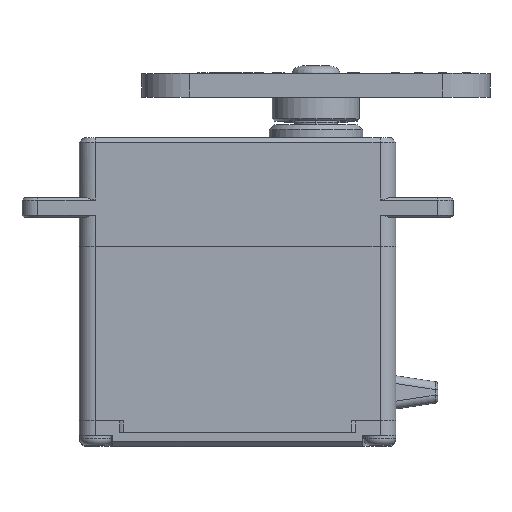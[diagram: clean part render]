
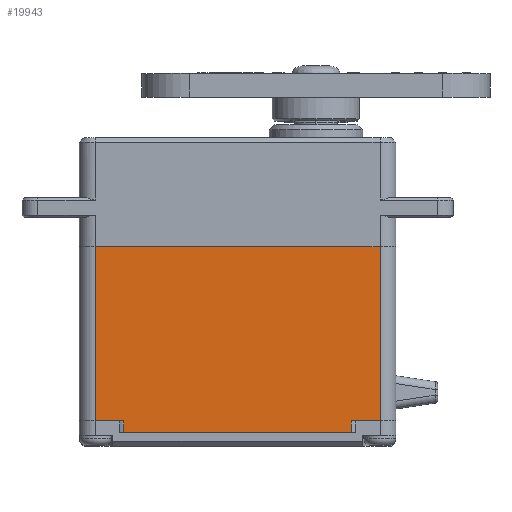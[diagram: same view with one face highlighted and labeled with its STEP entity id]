
A CAD part, top view. The second image highlights one B-rep face of the part: STEP entity #19943.
In plain terms, the highlighted planar face has unit normal (0, 0, 1).
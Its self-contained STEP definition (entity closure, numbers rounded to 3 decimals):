
#18257=DIRECTION('',(-1.,0.,0.));
#18258=VECTOR('',#18257,36.);
#18259=CARTESIAN_POINT('',(18.,0.,10.));
#18260=LINE('',#18259,#18258);
#18599=DIRECTION('',(0.,1.,0.));
#18600=VECTOR('',#18599,1.5);
#18601=CARTESIAN_POINT('',(14.359,-23.5,10.));
#18602=LINE('',#18601,#18600);
#18606=DIRECTION('',(-1.,0.,0.));
#18607=VECTOR('',#18606,3.641);
#18608=CARTESIAN_POINT('',(-14.359,-22.,10.));
#18609=LINE('',#18608,#18607);
#18613=DIRECTION('',(-1.,0.,0.));
#18614=VECTOR('',#18613,3.641);
#18615=CARTESIAN_POINT('',(18.,-22.,10.));
#18616=LINE('',#18615,#18614);
#18620=DIRECTION('',(-1.,0.,0.));
#18621=VECTOR('',#18620,28.717);
#18622=CARTESIAN_POINT('',(14.359,-23.5,10.));
#18623=LINE('',#18622,#18621);
#18634=DIRECTION('',(0.,-1.,0.));
#18635=VECTOR('',#18634,1.5);
#18636=CARTESIAN_POINT('',(-14.359,-22.,10.));
#18637=LINE('',#18636,#18635);
#18746=DIRECTION('',(0.,-1.,0.));
#18747=VECTOR('',#18746,22.);
#18748=CARTESIAN_POINT('',(-18.,0.,10.));
#18749=LINE('',#18748,#18747);
#18822=DIRECTION('',(0.,1.,0.));
#18823=VECTOR('',#18822,22.);
#18824=CARTESIAN_POINT('',(18.,-22.,10.));
#18825=LINE('',#18824,#18823);
#19509=CARTESIAN_POINT('',(18.,0.,10.));
#19510=VERTEX_POINT('',#19509);
#19511=CARTESIAN_POINT('',(-18.,0.,10.));
#19512=VERTEX_POINT('',#19511);
#19543=CARTESIAN_POINT('',(-18.,-22.,10.));
#19544=VERTEX_POINT('',#19543);
#19545=CARTESIAN_POINT('',(-14.359,-22.,10.));
#19546=VERTEX_POINT('',#19545);
#19559=CARTESIAN_POINT('',(14.359,-22.,10.));
#19560=VERTEX_POINT('',#19559);
#19561=CARTESIAN_POINT('',(18.,-22.,10.));
#19562=VERTEX_POINT('',#19561);
#19653=CARTESIAN_POINT('',(-14.359,-23.5,10.));
#19654=VERTEX_POINT('',#19653);
#19655=CARTESIAN_POINT('',(14.359,-23.5,10.));
#19656=VERTEX_POINT('',#19655);
#19923=CARTESIAN_POINT('',(-18.,0.,10.));
#19924=DIRECTION('',(0.,0.,1.));
#19925=DIRECTION('',(1.,0.,0.));
#19926=AXIS2_PLACEMENT_3D('',#19923,#19924,#19925);
#19927=PLANE('',#19926);
#19929=ORIENTED_EDGE('',*,*,#19928,.F.);
#19931=ORIENTED_EDGE('',*,*,#19930,.T.);
#19933=ORIENTED_EDGE('',*,*,#19932,.F.);
#19934=ORIENTED_EDGE('',*,*,#19728,.F.);
#19936=ORIENTED_EDGE('',*,*,#19935,.F.);
#19938=ORIENTED_EDGE('',*,*,#19937,.T.);
#19939=ORIENTED_EDGE('',*,*,#19916,.F.);
#19940=ORIENTED_EDGE('',*,*,#19864,.T.);
#19941=EDGE_LOOP('',(#19929,#19931,#19933,#19934,#19936,#19938,#19939,#19940));
#19942=FACE_OUTER_BOUND('',#19941,.F.);
#19943=ADVANCED_FACE('',(#19942),#19927,.T.);
#19728=EDGE_CURVE('',#19510,#19512,#18260,.T.);
#19864=EDGE_CURVE('',#19656,#19654,#18623,.T.);
#19916=EDGE_CURVE('',#19656,#19560,#18602,.T.);
#19928=EDGE_CURVE('',#19546,#19654,#18637,.T.);
#19930=EDGE_CURVE('',#19546,#19544,#18609,.T.);
#19932=EDGE_CURVE('',#19512,#19544,#18749,.T.);
#19935=EDGE_CURVE('',#19562,#19510,#18825,.T.);
#19937=EDGE_CURVE('',#19562,#19560,#18616,.T.);
